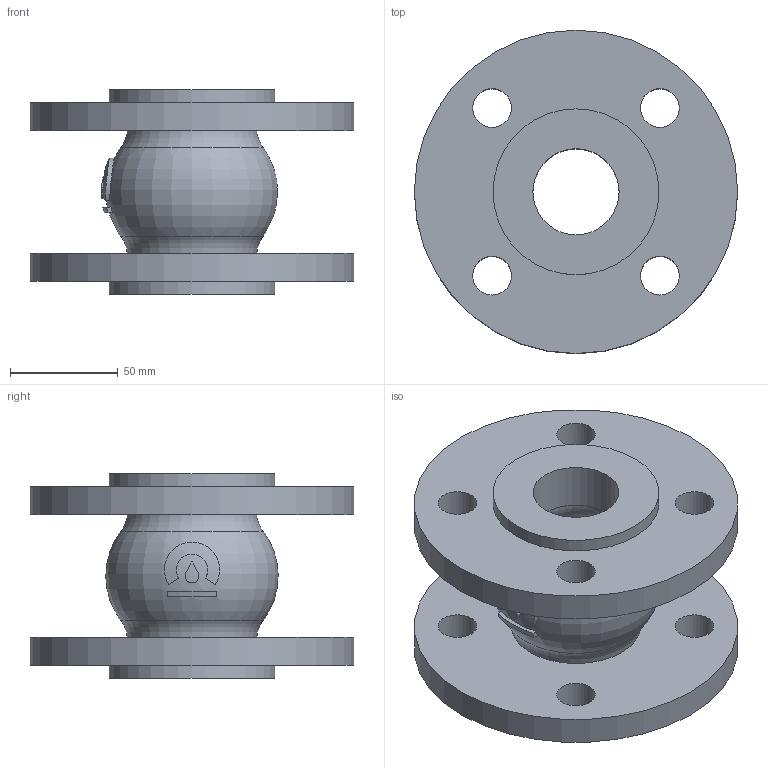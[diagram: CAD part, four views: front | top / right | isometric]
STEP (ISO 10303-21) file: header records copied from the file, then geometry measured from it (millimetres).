
FILE_DESCRIPTION(('STEP AP203'), '1');
FILE_NAME('Êîìïåíñàòîð KMS DN40 PN10_16', '', ('UNSPECIFIED'), ('UNSPECIFIED'), 'ASCON STEP Converter 1.6', 'ASCON Math Kernel', '');
FILE_SCHEMA(('CONFIG_CONTROL_DESIGN'));
Length unit declared in the file: millimetre
Bounding box: 150 x 150 x 95 mm (x, y, z)
Volume: 560924 mm3; surface area: 108165.3 mm2
Topology: 1 solids, 1 shells, 43 faces, 96 edges, 62 vertices
Faces by surface type: cylinder 21, plane 13, torus 9
Full cylindrical faces by diameter (mm): 18 x8, 40 x2, 77 x2, 150 x2
Entity records: 2228 total; most frequent: CARTESIAN_POINT 937, DIRECTION 182, ORIENTED_EDGE 152, EDGE_LOOP 88, AXIS2_PLACEMENT_3D 84, EDGE_CURVE 76, VERTEX_POINT 62, FACE_BOUND 48
